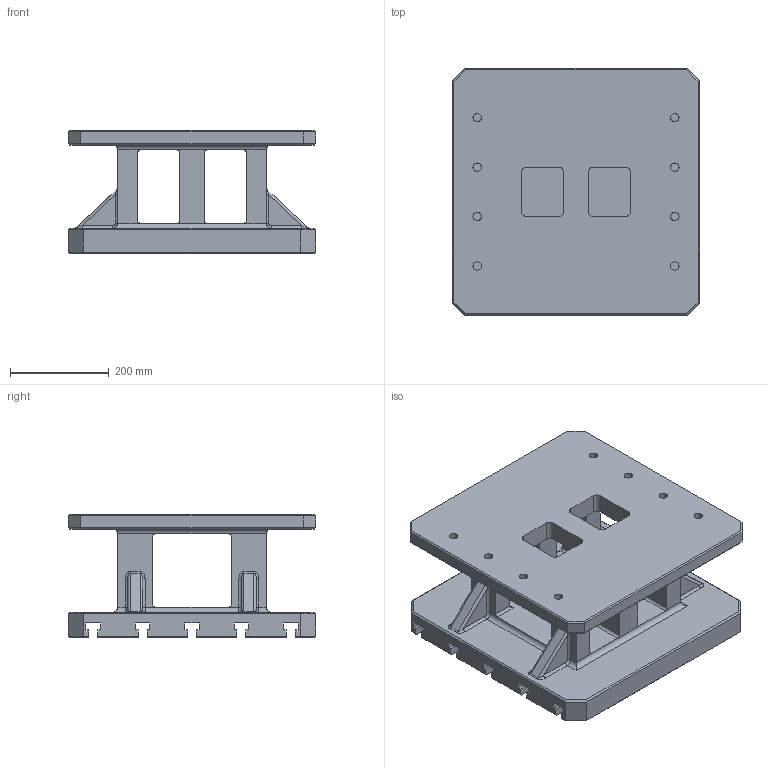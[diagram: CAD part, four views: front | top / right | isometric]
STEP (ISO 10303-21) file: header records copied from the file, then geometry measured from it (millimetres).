
FILE_DESCRIPTION((''),'2;1');
FILE_NAME('FG_WH_RISTL_TSL18NP002','2026-05-24T10:32:58',('Admin'),(''),'CREO PARAMETRIC BY PTC INC, 2025010','CREO PARAMETRIC BY PTC INC, 2025010','');
FILE_SCHEMA(('CONFIG_CONTROL_DESIGN'));
Length unit declared in the file: millimetre
Products named in the file (1): FG_WH_RISTL_TSL18NP002
Bounding box: 500 x 500 x 250 mm (x, y, z)
Volume: 22757872 mm3; surface area: 1542149.3 mm2
Topology: 1 solids, 1 shells, 292 faces, 742 edges, 452 vertices
Faces by surface type: plane 156, cylinder 112, bspline 24
Entity records: 9874 total; most frequent: CARTESIAN_POINT 2860, ORIENTED_EDGE 1484, DIRECTION 1390, EDGE_CURVE 742, VECTOR 518, LINE 518, VERTEX_POINT 452, AXIS2_PLACEMENT_3D 436
